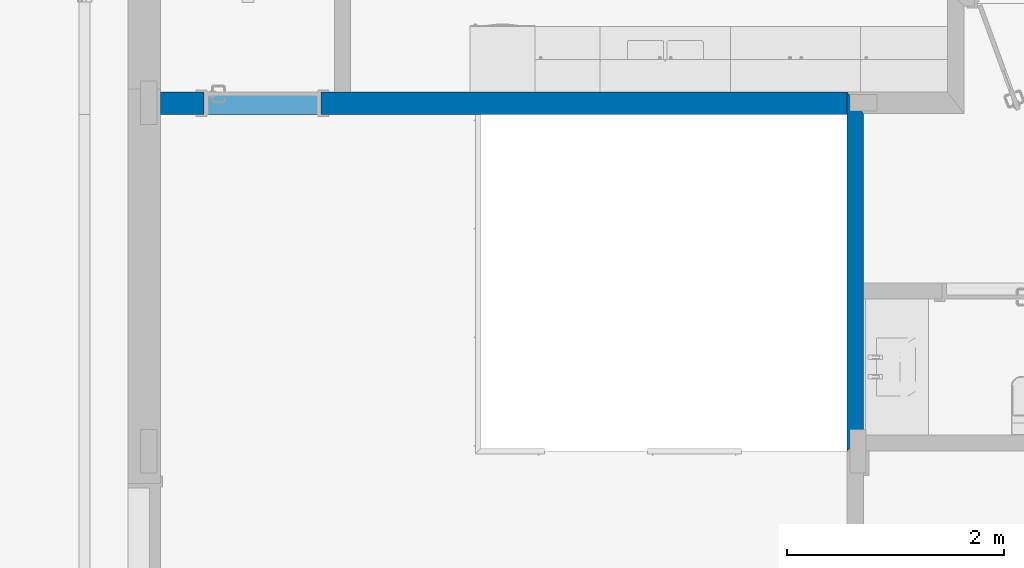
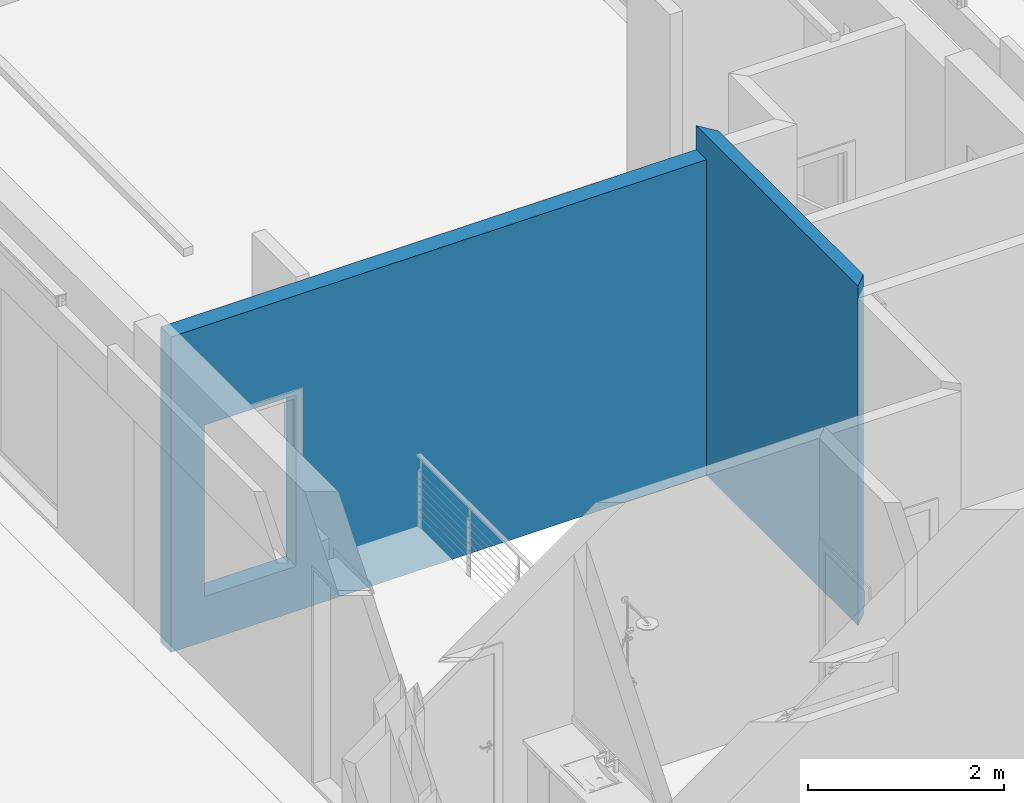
# One storey, part 6 of 26: 2 walls, 1 opening.
"""IFC2X3 building model written with IfcOpenShell, lengths in millimetres."""

from ifc_helpers import new_model, entity, si_unit, converted_unit, money_unit, direction, frame, origin_with_axes, origin_2d_with_axis, place, context, subcontext, project, spatial, polyline, rectangle, outline, extrude, material, layer, layer_set, layer_usage, type_object, element, save


model = new_model("IFC2X3")

# Units and contexts
model_context = context("Model", 3, precision=1e-05, world=origin_with_axes(), true_north=direction((0.0, 1.0)))
body_context = subcontext(model_context, "Body", "Model", "MODEL_VIEW")
ifc_project = project(units=[si_unit("LENGTHUNIT", "METRE", prefix="MILLI"), si_unit("AREAUNIT", "SQUARE_METRE"), si_unit("VOLUMEUNIT", "CUBIC_METRE"), converted_unit("PLANEANGLEUNIT", "DEGREE", entity("IfcPlaneAngleMeasure", 0.0174532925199), si_unit("PLANEANGLEUNIT", "RADIAN"), dimensions=[0, 0, 0, 0, 0, 0, 0]), si_unit("SOLIDANGLEUNIT", "STERADIAN"), money_unit("USD"), converted_unit("TIMEUNIT", "Year", entity("IfcTimeMeasure", 31556926.0), si_unit("TIMEUNIT", "SECOND"), dimensions=[0, 0, 0, 0, 0, 0, 0]), si_unit("MASSUNIT", "GRAM"), si_unit("THERMODYNAMICTEMPERATUREUNIT", "DEGREE_CELSIUS"), si_unit("LUMINOUSINTENSITYUNIT", "LUMEN")], contexts=[model_context])

# Site, building, storey
site_placement = place(None, origin_with_axes())
site = spatial("IfcSite", under=ifc_project, at=site_placement, Name="Grove Residential", CompositionType="ELEMENT")
building_placement = place(site_placement, origin_with_axes())
building = spatial("IfcBuilding", under=site, at=building_placement, Name="Building", CompositionType="ELEMENT")
storey_placement = place(building_placement, origin_with_axes())
storey = spatial("IfcBuildingStorey", under=building, at=storey_placement, Name="Ground Floor", CompositionType="ELEMENT", Elevation=0.0)

# Wall, opening
ifc_material_1 = material(Name="Wall Tiles")
ifc_layer_1 = layer(ifc_material_1, 12.5, ventilated="UNKNOWN")
ifc_material_2 = material(Name="Gypsum Plasterboard - Waterproof")
ifc_layer_2 = layer(ifc_material_2, 12.5, ventilated="UNKNOWN")
ifc_material_3 = material(Name="Air Space - Frame")
ifc_layer_3 = layer(ifc_material_3, 100.0, ventilated="UNKNOWN")
ifc_material_4 = material(Name="Insulation - Mineral Soft")
ifc_layer_4 = layer(ifc_material_4, 50.0, ventilated="UNKNOWN")
ifc_material_5 = material(Name="Air Space - Fixing Zone")
ifc_layer_5 = layer(ifc_material_5, 10.0, ventilated="UNKNOWN")
ifc_material_6 = material(Name="Gypsum Plasterboard")
ifc_layer_6 = layer(ifc_material_6, 12.5, ventilated="UNKNOWN")
ifc_layer_7 = layer(ifc_material_6, 12.5, ventilated="UNKNOWN")
ifc_layer_set_1 = layer_set([ifc_layer_1, ifc_layer_2, ifc_layer_3, ifc_layer_4, ifc_layer_5, ifc_layer_6, ifc_layer_7], Name="IWF-005")
ifc_layer_usage_1 = layer_usage(ifc_layer_set_1, "AXIS2", "NEGATIVE", 105.0)
wall_type_1 = type_object("IfcWallType", Name="IWF-005 210", PredefinedType="NOTDEFINED")
wall_1_placement = place(storey_placement, frame((564.99993667, 6955.0, -560.0), z_axis=(0.0, 0.0, 1.0), x_axis=(1.0, 0.0, 0.0)))
wall_1 = element("IfcWallStandardCase", 1, at=wall_1_placement, inside=storey, type_object=wall_type_1, material=ifc_layer_usage_1, Name="SW - 001", context=body_context, shape_type="SweptSolid", body=[
    extrude(outline(polyline([(185.0, -105.0), (6510.00006333, -105.0), (6510.00006333, 105.0), (185.0, 105.0), (185.0, -105.0)])), origin_with_axes(), (0.0, 0.0, 1.0), 3940.0),
])
opening_placement = place(wall_1_placement, frame((1125.00006333, 0.0, 560.0), z_axis=(0.0, 0.0, 1.0), x_axis=(1.0, 0.0, 0.0)))
element("IfcOpeningElement", 2, at=opening_placement, cuts=wall_1, Name="D.02", context=body_context, shape_type="SweptSolid", body=[
    extrude(rectangle(XDim=1080.0, YDim=2140.0, at=origin_2d_with_axis()), frame((0.0, 210.0, 1070.0), z_axis=(0.0, -1.0, 0.0), x_axis=(1.0, 0.0, 0.0)), (0.0, 0.0, 1.0), 630.0),
    extrude(rectangle(XDim=1224.0, YDim=2212.0, at=origin_2d_with_axis()), frame((0.0, 105.0, 1106.0), z_axis=(0.0, -1.0, 0.0), x_axis=(1.0, 0.0, 0.0)), (0.0, 0.0, -1.0), 210.0),
    extrude(rectangle(XDim=1224.0, YDim=2212.0, at=origin_2d_with_axis()), frame((0.0, -105.0, 1106.0), z_axis=(0.0, 1.0, 0.0), x_axis=(1.0, 0.0, 0.0)), (0.0, 0.0, -1.0), 210.0),
])

# Wall
ifc_layer_8 = layer(ifc_material_1, 12.5, ventilated="UNKNOWN")
ifc_layer_9 = layer(ifc_material_2, 12.5, ventilated="UNKNOWN")
ifc_layer_10 = layer(ifc_material_3, 50.0, ventilated="UNKNOWN")
ifc_layer_11 = layer(ifc_material_4, 50.0, ventilated="UNKNOWN")
ifc_layer_12 = layer(ifc_material_6, 12.5, ventilated="UNKNOWN")
ifc_layer_13 = layer(ifc_material_6, 12.5, ventilated="UNKNOWN")
ifc_layer_set_2 = layer_set([ifc_layer_8, ifc_layer_9, ifc_layer_10, ifc_layer_11, ifc_layer_12, ifc_layer_13], Name="IWF-002")
ifc_layer_usage_2 = layer_usage(ifc_layer_set_2, "AXIS2", "NEGATIVE", 150.0)
wall_type_2 = type_object("IfcWallType", Name="IWF-002 150", PredefinedType="NOTDEFINED")
wall_2_placement = place(storey_placement, frame((7075.0, 6960.00018153, -560.0), z_axis=(0.0, 0.0, 1.0), x_axis=(0.0, -1.0, 0.0)))
element("IfcWallStandardCase", 3, at=wall_2_placement, inside=storey, type_object=wall_type_2, material=ifc_layer_usage_2, Name="SW - 001", context=body_context, shape_type="SweptSolid", body=[
    extrude(outline(polyline([(-100.0, 0.0), (3210.00018153, 0.0), (3060.00018153, 150.0), (100.0, 150.0), (-100.0, 0.0)])), origin_with_axes(), (0.0, 0.0, 1.0), 4240.0),
])

save(model, "model.ifc")
